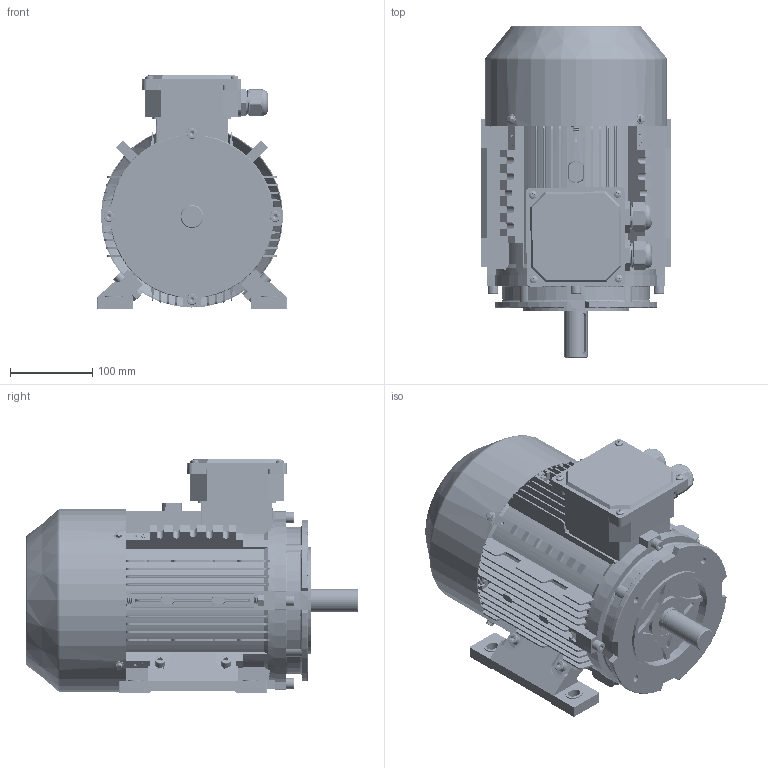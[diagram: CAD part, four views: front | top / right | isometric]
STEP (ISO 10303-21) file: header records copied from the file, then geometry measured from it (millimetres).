
FILE_DESCRIPTION (( 'STEP AP203' ), '1' );
FILE_NAME ('ME3-112B34B 3D.STEP', '2024-07-12T07:14:25', ( 'User' ), ( 'China' ), 'SwSTEP 2.0', 'SolidWorks 2018', '' );
FILE_SCHEMA (( 'CONFIG_CONTROL_DESIGN' ));
Length unit declared in the file: millimetre
Products named in the file (19): ME3-112B34B  3D; 蚐猾45X30X7; ME3-112B3傷裔; ME3-112瑞欶; deep groove ball bearings gb_Rolling bearings 6306 GB 276-94; cross recessed pan head screws gb_GB_CROSS_SCREWS_TYPE1 M5X8-8  H type-S; ME3-112 转轴（386）; hex flange bolts-heavy grade b gb_GB_FASTENER_BOLT_HFBB M5X10-S; MS112-132 諉盄碟釱; M24 蹟杶; hexagon socket head cap screws gb_GB_FASTENER_SCREWS_HSHCS M8X40-S; M24 蹟杶簸; hex nuts-style normal-grades ab gb_GB_HEXAGON_TYPE10 M8X1-S; MS112-132諉盄碟裔; spring lock washers--normal type gb_GB_FASTENER_WASHER_SW 8; ME3-112 儂褲; ME3-112B14B傷裔; hexagon socket head cap screws gb_GB_FASTENER_SCREWS_HSHCS M8X30-S; ME3-112菁褐
Assembly tree (55 placements, depth 2):
  ME3-112B34B  3D
    ME3-112 儂褲
    ME3-112菁褐  x2
    ME3-112B3傷裔
    deep groove ball bearings gb_Rolling bearings 6306 GB 276-94  x2
    ME3-112 转轴（386）
    MS112-132 諉盄碟釱
    hexagon socket head cap screws gb_GB_FASTENER_SCREWS_HSHCS M8X40-S  x8
    hex nuts-style normal-grades ab gb_GB_HEXAGON_TYPE10 M8X1-S  x11
    spring lock washers--normal type gb_GB_FASTENER_WASHER_SW 8  x4
    hexagon socket head cap screws gb_GB_FASTENER_SCREWS_HSHCS M8X30-S  x4
    蚐猾45X30X7
    ME3-112瑞欶
    cross recessed pan head screws gb_GB_CROSS_SCREWS_TYPE1 M5X8-8  H type-S  x8
    hex flange bolts-heavy grade b gb_GB_FASTENER_BOLT_HFBB M5X10-S  x4
    M24 蹟杶  x2
    M24 蹟杶簸  x2
    MS112-132諉盄碟裔
    ME3-112B14B傷裔
Bounding box: 230.78 x 403.61 x 283.5 mm (x, y, z)
Volume: 2713574.4 mm3; surface area: 1322317.2 mm2
Topology: 55 solids, 56 shells, 7999 faces, 19163 edges, 11281 vertices
Faces by surface type: cone 3109, cylinder 2336, plane 2187, torus 251, sphere 72, bspline 44
Entity records: 124530 total; most frequent: CARTESIAN_POINT 32500, ORIENTED_EDGE 19078, DIRECTION 18120, EDGE_CURVE 9539, AXIS2_PLACEMENT_3D 6252, VERTEX_POINT 6079, LINE 5616, VECTOR 5616
